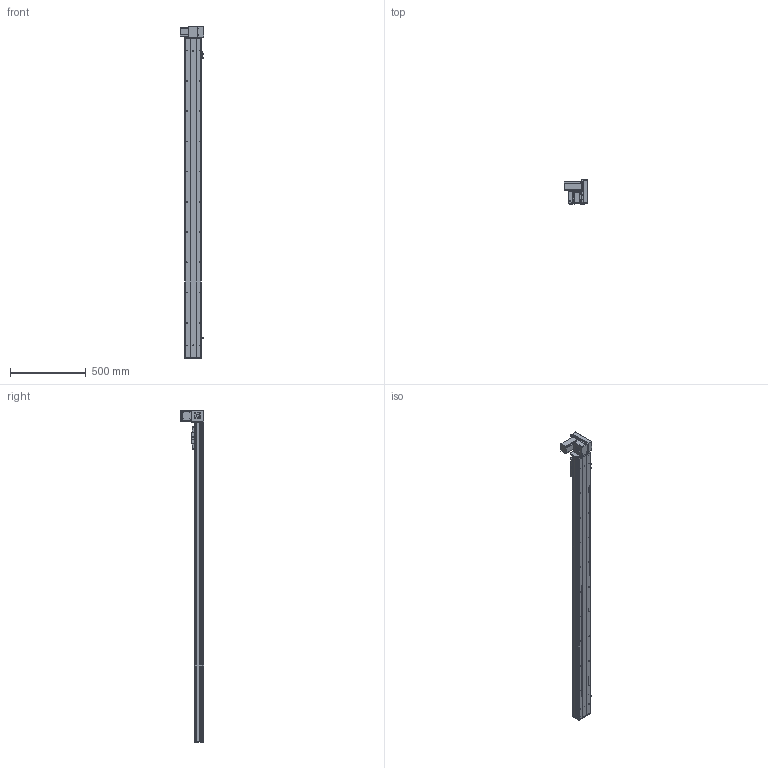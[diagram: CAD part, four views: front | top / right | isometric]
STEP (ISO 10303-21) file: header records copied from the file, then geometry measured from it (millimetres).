
FILE_DESCRIPTION (( 'STEP AP203' ), '1' );
FILE_NAME ('Y10CB-D90-S1850-UR-P400W.STEP', '2020-02-16T03:58:00', ( '微软用户' ), ( '微软中国' ), 'SwSTEP 2.0', 'SolidWorks 2017', '' );
FILE_SCHEMA (( 'CONFIG_CONTROL_DESIGN' ));
Length unit declared in the file: millimetre
Products named in the file (18): 10CB-耜裔; 0B-萇儂楊擘啣; Y135C-陔俋离換覜結え-; san松下电机400不带刹车----; Y100-135俋离換覜ん--; 0B-源倛裔啣; Y10B-々湍喘謫眊楊擘啣--; Y10B--々湍喘謫眊--666; 0B-埴倛裔啣; Y10B-耜蚾蟀諉啣----; 10CB-詩湍-; 00B-俋欶BM--; Y10CB- 掛极耜裔啣-毀---; 0CB-雄赽釱---; Y10CB-D90-S1850-UR-P400W; Y10C---詩湍揤啣; 0Cb-俋欶---; 10CB9-掛极
Assembly tree (21 placements, depth 2):
  Y10CB-D90-S1850-UR-P400W
    0CB-雄赽釱---
    0Cb-俋欶---
    Y10B-々湍喘謫眊楊擘啣--
    0B-萇儂楊擘啣
    san松下电机400不带刹车----
    0B-源倛裔啣
    0B-埴倛裔啣
    10CB-詩湍-
    Y10CB- 掛极耜裔啣-毀---  x2
    Y10C---詩湍揤啣  x2
    10CB9-掛极
    10CB-耜裔
    Y135C-陔俋离換覜結え-
    Y100-135俋离換覜ん--  x3
    Y10B--々湍喘謫眊--666
    Y10B-耜蚾蟀諉啣----
    00B-俋欶BM--
Bounding box: 157 x 155.5 x 2196 mm (x, y, z)
Volume: 4619198.9 mm3; surface area: 2159827.8 mm2
Topology: 21 solids, 21 shells, 1038 faces, 2803 edges, 1826 vertices
Faces by surface type: cylinder 529, plane 485, cone 24
Entity records: 32912 total; most frequent: CARTESIAN_POINT 6061, DIRECTION 5270, ORIENTED_EDGE 5076, EDGE_CURVE 2538, AXIS2_PLACEMENT_3D 1885, VERTEX_POINT 1652, LINE 1500, VECTOR 1500
